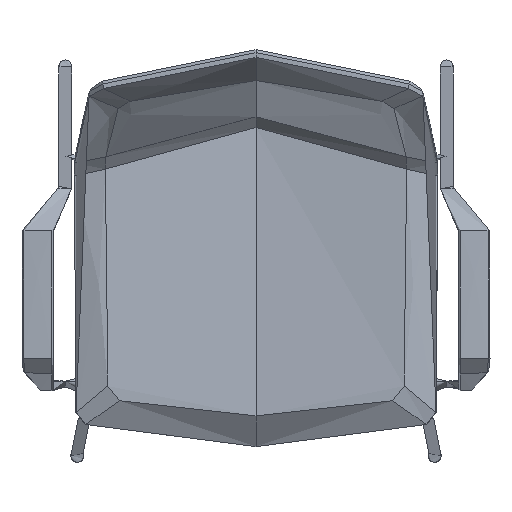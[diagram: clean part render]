
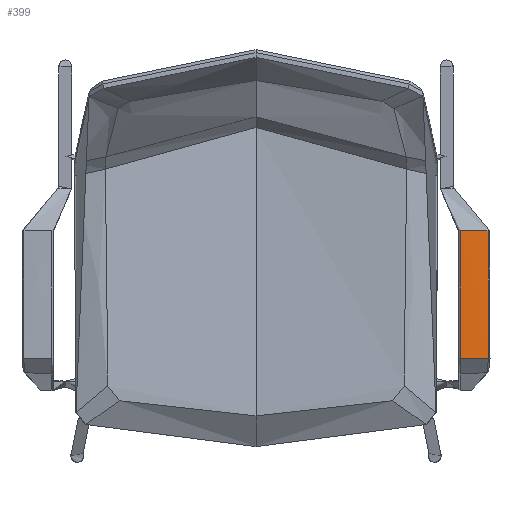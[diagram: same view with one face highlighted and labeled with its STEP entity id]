
A CAD part, top view. The second image highlights one B-rep face of the part: STEP entity #399.
In plain terms, the highlighted free-form (B-spline) face has degree [2, 3] with [3, 4] control points.
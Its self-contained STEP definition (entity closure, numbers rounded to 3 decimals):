
#124=B_SPLINE_CURVE_WITH_KNOTS('',3,(#5532,#5533,#5534,#5535,#5536,#5537,
#5538,#5539,#5540,#5541,#5542,#5543,#5544,#5545,#5546,#5547,#5548,#5549,
#5550,#5551,#5552,#5553),.UNSPECIFIED.,.F.,.F.,(4,2,2,2,2,2,2,2,2,2,4),
(43.85,44.247,45.237,49.198,53.158,
57.119,61.079,65.04,69.,69.99,
70.419),.UNSPECIFIED.);
#399=ADVANCED_FACE('',(#593),#2734,.T.);
#593=FACE_OUTER_BOUND('',#787,.T.);
#787=EDGE_LOOP('',(#1119,#1120,#1121,#1122));
#1119=ORIENTED_EDGE('',*,*,#1818,.T.);
#1120=ORIENTED_EDGE('',*,*,#1862,.F.);
#1121=ORIENTED_EDGE('',*,*,#1854,.F.);
#1122=ORIENTED_EDGE('',*,*,#1875,.F.);
#1818=EDGE_CURVE('',#2490,#2491,#124,.T.);
#1854=EDGE_CURVE('',#2483,#2484,#2262,.T.);
#1862=EDGE_CURVE('',#2484,#2491,#2270,.T.);
#1875=EDGE_CURVE('',#2490,#2483,#2281,.T.);
#2262=(
BOUNDED_CURVE()
B_SPLINE_CURVE(2,(#5829,#5830,#5831),.UNSPECIFIED.,.F.,.F.)
B_SPLINE_CURVE_WITH_KNOTS((3,3),(5.503,40.867),
 .UNSPECIFIED.)
CURVE()
GEOMETRIC_REPRESENTATION_ITEM()
RATIONAL_B_SPLINE_CURVE((1.,0.999,1.))
REPRESENTATION_ITEM('')
);
#2270=(
BOUNDED_CURVE()
B_SPLINE_CURVE(3,(#5858,#5859,#5860,#5861),.UNSPECIFIED.,.F.,.F.)
B_SPLINE_CURVE_WITH_KNOTS((4,4),(0.,160.849),
 .UNSPECIFIED.)
CURVE()
GEOMETRIC_REPRESENTATION_ITEM()
RATIONAL_B_SPLINE_CURVE((1.,1.,1.,1.))
REPRESENTATION_ITEM('')
);
#2281=(
BOUNDED_CURVE()
B_SPLINE_CURVE(3,(#5916,#5917,#5918,#5919),.UNSPECIFIED.,.F.,.F.)
B_SPLINE_CURVE_WITH_KNOTS((4,4),(12.598,173.362),
 .UNSPECIFIED.)
CURVE()
GEOMETRIC_REPRESENTATION_ITEM()
RATIONAL_B_SPLINE_CURVE((1.,1.,1.,1.))
REPRESENTATION_ITEM('')
);
#2483=VERTEX_POINT('',#5377);
#2484=VERTEX_POINT('',#5378);
#2490=VERTEX_POINT('',#5384);
#2491=VERTEX_POINT('',#5385);
#2734=(
BOUNDED_SURFACE()
B_SPLINE_SURFACE(2,3,((#5013,#5014,#5015,#5016),(#5017,#5018,#5019,#5020),
(#5021,#5022,#5023,#5024)),.UNSPECIFIED.,.F.,.F.,.F.)
B_SPLINE_SURFACE_WITH_KNOTS((3,3),(4,4),(0.,43.067),(0.,173.567),
 .UNSPECIFIED.)
GEOMETRIC_REPRESENTATION_ITEM()
RATIONAL_B_SPLINE_SURFACE(((1.,1.,1.,1.),(0.999,0.999,
0.999,0.999),(1.,1.,1.,1.)))
REPRESENTATION_ITEM('')
SURFACE()
);
#5013=CARTESIAN_POINT('',(298.,69.895,643.014));
#5014=CARTESIAN_POINT('',(298.,12.151,646.055));
#5015=CARTESIAN_POINT('',(298.,-45.665,647.709));
#5016=CARTESIAN_POINT('',(298.,-103.488,647.973));
#5017=CARTESIAN_POINT('',(276.447,69.887,642.853));
#5018=CARTESIAN_POINT('',(276.447,12.145,645.894));
#5019=CARTESIAN_POINT('',(276.447,-45.668,647.548));
#5020=CARTESIAN_POINT('',(276.447,-103.489,647.812));
#5021=CARTESIAN_POINT('',(255.,70.,645.));
#5022=CARTESIAN_POINT('',(255.,12.224,648.043));
#5023=CARTESIAN_POINT('',(255.,-45.624,649.698));
#5024=CARTESIAN_POINT('',(255.,-103.479,649.962));
#5377=CARTESIAN_POINT('',(292.498,-103.488,647.97));
#5378=CARTESIAN_POINT('',(257.189,-103.48,649.749));
#5384=CARTESIAN_POINT('',(291.967,57.292,643.656));
#5385=CARTESIAN_POINT('',(257.189,57.386,645.429));
#5532=CARTESIAN_POINT('',(291.967,57.292,643.656));
#5533=CARTESIAN_POINT('',(291.793,57.293,643.661));
#5534=CARTESIAN_POINT('',(291.62,57.293,643.659));
#5535=CARTESIAN_POINT('',(291.013,57.293,643.666));
#5536=CARTESIAN_POINT('',(290.58,57.293,643.67));
#5537=CARTESIAN_POINT('',(288.417,57.295,643.696));
#5538=CARTESIAN_POINT('',(286.686,57.297,643.728));
#5539=CARTESIAN_POINT('',(283.226,57.302,643.815));
#5540=CARTESIAN_POINT('',(281.496,57.305,643.869));
#5541=CARTESIAN_POINT('',(278.037,57.312,644.001));
#5542=CARTESIAN_POINT('',(276.308,57.316,644.077));
#5543=CARTESIAN_POINT('',(272.851,57.326,644.253));
#5544=CARTESIAN_POINT('',(271.123,57.331,644.353));
#5545=CARTESIAN_POINT('',(267.668,57.342,644.573));
#5546=CARTESIAN_POINT('',(265.942,57.349,644.695));
#5547=CARTESIAN_POINT('',(262.49,57.362,644.96));
#5548=CARTESIAN_POINT('',(260.765,57.37,645.104));
#5549=CARTESIAN_POINT('',(258.61,57.38,645.298));
#5550=CARTESIAN_POINT('',(258.18,57.382,645.338));
#5551=CARTESIAN_POINT('',(257.562,57.385,645.394));
#5552=CARTESIAN_POINT('',(257.375,57.386,645.414));
#5553=CARTESIAN_POINT('',(257.189,57.386,645.429));
#5829=CARTESIAN_POINT('',(292.498,-103.488,647.97));
#5830=CARTESIAN_POINT('',(274.804,-103.488,648.08));
#5831=CARTESIAN_POINT('',(257.189,-103.48,649.749));
#5858=CARTESIAN_POINT('',(257.189,-103.48,649.749));
#5859=CARTESIAN_POINT('',(257.189,-49.835,649.504));
#5860=CARTESIAN_POINT('',(257.189,3.805,648.063));
#5861=CARTESIAN_POINT('',(257.189,57.386,645.429));
#5916=CARTESIAN_POINT('',(291.967,57.292,643.656));
#5917=CARTESIAN_POINT('',(292.291,3.74,646.286));
#5918=CARTESIAN_POINT('',(292.468,-49.871,647.725));
#5919=CARTESIAN_POINT('',(292.498,-103.488,647.97));
